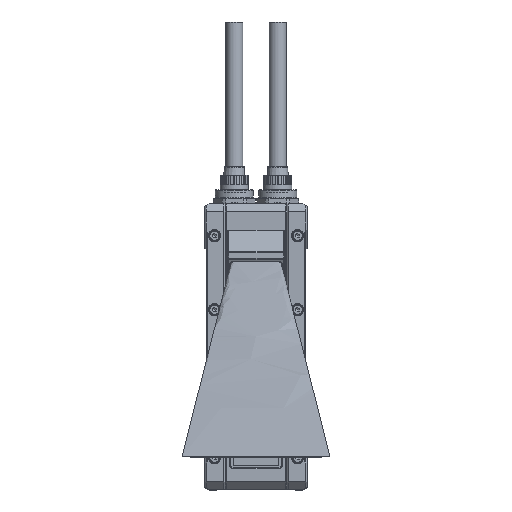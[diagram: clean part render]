
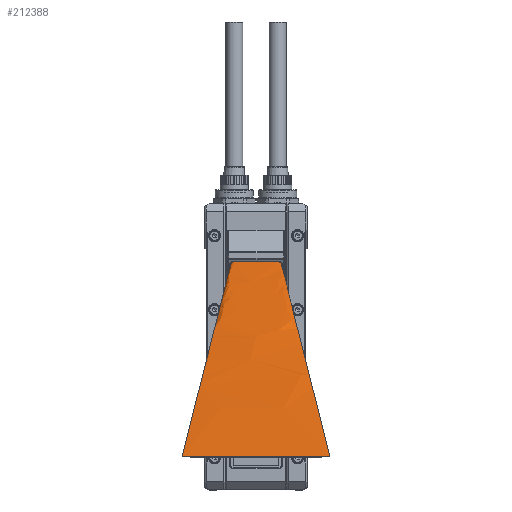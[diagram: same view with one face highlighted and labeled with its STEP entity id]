
A CAD part, top view. The second image highlights one B-rep face of the part: STEP entity #212388.
In plain terms, the highlighted free-form (B-spline) face has degree [3, 1] with [17, 2] control points.
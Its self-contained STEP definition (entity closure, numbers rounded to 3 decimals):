
#3007 = AXIS2_PLACEMENT_3D ( 'NONE', #88703, #302582, #144291 ) ;
#11779 = DIRECTION ( 'NONE',  ( -0.121, 0.48, -0.869 ) ) ;
#14892 = ORIENTED_EDGE ( 'NONE', *, *, #29100, .T. ) ;
#17611 = CARTESIAN_POINT ( 'NONE',  ( -9.071, 76.561, -115.504 ) ) ;
#19293 = CARTESIAN_POINT ( 'NONE',  ( -9.922, 75.838, -115.921 ) ) ;
#21461 = VECTOR ( 'NONE', #11779, 1000. ) ;
#22727 = CARTESIAN_POINT ( 'NONE',  ( -11.638, 0., 20. ) ) ;
#23028 = ORIENTED_EDGE ( 'NONE', *, *, #339159, .T. ) ;
#29100 = EDGE_CURVE ( 'NONE', #33655, #131299, #103701, .T. ) ;
#33655 = VERTEX_POINT ( 'NONE', #145343 ) ;
#39599 = CARTESIAN_POINT ( 'NONE',  ( 19.5, 37.662, -48.109 ) ) ;
#48856 = FACE_OUTER_BOUND ( 'NONE', #153938, .T. ) ;
#49158 = LINE ( 'NONE', #129220, #283963 ) ;
#53884 = VECTOR ( 'NONE', #326402, 1000. ) ;
#61184 = EDGE_CURVE ( 'NONE', #125379, #33655, #213462, .T. ) ;
#69934 = CARTESIAN_POINT ( 'NONE',  ( 9.922, 75.838, -115.921 ) ) ;
#75005 = CARTESIAN_POINT ( 'NONE',  ( -7.074, 76.622, -115.468 ) ) ;
#80337 = ORIENTED_EDGE ( 'NONE', *, *, #61184, .T. ) ;
#88119 = CARTESIAN_POINT ( 'NONE',  ( -29., 0., 20. ) ) ;
#88703 = CARTESIAN_POINT ( 'NONE',  ( -8.5, 75.323, -116.218 ) ) ;
#94008 = ORIENTED_EDGE ( 'NONE', *, *, #291671, .T. ) ;
#94958 = VERTEX_POINT ( 'NONE', #319959 ) ;
#97680 = CARTESIAN_POINT ( 'NONE',  ( 4.237, 76.622, -115.468 ) ) ;
#101056 = CARTESIAN_POINT ( 'NONE',  ( -23.713, 0., 20. ) ) ;
#102770 = CARTESIAN_POINT ( 'NONE',  ( 23.713, 0., 20. ) ) ;
#103701 = LINE ( 'NONE', #157664, #223949 ) ;
#104465 = CARTESIAN_POINT ( 'NONE',  ( -9.578, 76.276, -115.668 ) ) ;
#106181 = EDGE_CURVE ( 'NONE', #219246, #125379, #178578, .T. ) ;
#123790 = CARTESIAN_POINT ( 'NONE',  ( 9.071, 76.561, -115.504 ) ) ;
#125379 = VERTEX_POINT ( 'NONE', #291194 ) ;
#129220 = CARTESIAN_POINT ( 'NONE',  ( -19.5, 37.662, -48.109 ) ) ;
#131299 = VERTEX_POINT ( 'NONE', #214502 ) ;
#144291 = DIRECTION ( 'NONE',  ( 0., 0.866, 0.5 ) ) ;
#145343 = CARTESIAN_POINT ( 'NONE',  ( 8.5, 76.622, -115.468 ) ) ;
#149512 = DIRECTION ( 'NONE',  ( 0., -0.866, -0.5 ) ) ;
#153938 = EDGE_LOOP ( 'NONE', ( #94008, #169645, #80337, #14892, #23028, #154274 ) ) ;
#154274 = ORIENTED_EDGE ( 'NONE', *, *, #344250, .F. ) ;
#157664 = CARTESIAN_POINT ( 'NONE',  ( -8.5, 76.622, -115.468 ) ) ;
#169645 = ORIENTED_EDGE ( 'NONE', *, *, #106181, .T. ) ;
#172745 = CARTESIAN_POINT ( 'NONE',  ( 29., 0., 20. ) ) ;
#175866 = CARTESIAN_POINT ( 'NONE',  ( 28.517, 0., 20. ) ) ;
#177551 = CARTESIAN_POINT ( 'NONE',  ( -10., 75.323, -116.218 ) ) ;
#178578 = LINE ( 'NONE', #39599, #21461 ) ;
#179279 = CARTESIAN_POINT ( 'NONE',  ( -4.237, 76.622, -115.468 ) ) ;
#180974 = CARTESIAN_POINT ( 'NONE',  ( -29., 0., 20. ) ) ;
#182687 = CARTESIAN_POINT ( 'NONE',  ( -28.517, 0., 20. ) ) ;
#203722 = CARTESIAN_POINT ( 'NONE',  ( 7.074, 76.622, -115.468 ) ) ;
#205450 = CARTESIAN_POINT ( 'NONE',  ( 19.363, 0., 20. ) ) ;
#207158 = CARTESIAN_POINT ( 'NONE',  ( -8.687, 76.622, -115.468 ) ) ;
#208334 = CIRCLE ( 'NONE', #3007, 1.5 ) ;
#208835 = CARTESIAN_POINT ( 'NONE',  ( 24.7, 0., 20. ) ) ;
#212388 = ADVANCED_FACE ( 'NONE', ( #48856 ), #233101, .T. ) ;
#213462 = CIRCLE ( 'NONE', #341218, 1.5 ) ;
#214502 = CARTESIAN_POINT ( 'NONE',  ( -8.5, 76.622, -115.468 ) ) ;
#219246 = VERTEX_POINT ( 'NONE', #172745 ) ;
#223949 = VECTOR ( 'NONE', #336940, 1000. ) ;
#229755 = CARTESIAN_POINT ( 'NONE',  ( 10., 75.493, -116.12 ) ) ;
#231446 = CARTESIAN_POINT ( 'NONE',  ( 0., 0., 20. ) ) ;
#232777 = CARTESIAN_POINT ( 'NONE',  ( 8.5, 75.323, -116.218 ) ) ;
#233101 = B_SPLINE_SURFACE_WITH_KNOTS ( 'NONE', 3, 1, ( 
 ( #180974, #177551 ),
 ( #182687, #259229 ),
 ( #342903, #19293 ),
 ( #260919, #104465 ),
 ( #255853, #17611 ),
 ( #101056, #207158 ),
 ( #313310, #75005 ),
 ( #22727, #179279 ),
 ( #231446, #341166 ),
 ( #308173, #97680 ),
 ( #205450, #203722 ),
 ( #102770, #337751 ),
 ( #208835, #123790 ),
 ( #315008, #311606 ),
 ( #288871, #69934 ),
 ( #175866, #229755 ),
 ( #282025, #336010 ) ),
 .UNSPECIFIED., .F., .F., .F.,
 ( 4, 1, 1, 1, 2, 1, 1, 1, 2, 1, 1, 1, 4 ),
 ( 2, 2 ),
 ( 0., 0.026, 0.052, 0.078, 0.104, 0.302, 0.5, 0.698, 0.896, 0.922, 0.948, 0.974, 1. ),
 ( 0., 1. ),
 .UNSPECIFIED. ) ;
#255853 = CARTESIAN_POINT ( 'NONE',  ( -24.7, 0., 20. ) ) ;
#257780 = LINE ( 'NONE', #88119, #53884 ) ;
#259229 = CARTESIAN_POINT ( 'NONE',  ( -10., 75.493, -116.12 ) ) ;
#260919 = CARTESIAN_POINT ( 'NONE',  ( -26.139, 0., 20. ) ) ;
#261226 = DIRECTION ( 'NONE',  ( 0.121, 0.48, -0.869 ) ) ;
#270678 = CARTESIAN_POINT ( 'NONE',  ( -10., 75.323, -116.218 ) ) ;
#282025 = CARTESIAN_POINT ( 'NONE',  ( 29., 0., 20. ) ) ;
#283963 = VECTOR ( 'NONE', #261226, 1000. ) ;
#288871 = CARTESIAN_POINT ( 'NONE',  ( 27.563, 0., 20. ) ) ;
#291194 = CARTESIAN_POINT ( 'NONE',  ( 10., 75.323, -116.218 ) ) ;
#291671 = EDGE_CURVE ( 'NONE', #94958, #219246, #257780, .T. ) ;
#302582 = DIRECTION ( 'NONE',  ( 0., -0.5, 0.866 ) ) ;
#303465 = VERTEX_POINT ( 'NONE', #270678 ) ;
#308173 = CARTESIAN_POINT ( 'NONE',  ( 11.638, 0., 20. ) ) ;
#311187 = DIRECTION ( 'NONE',  ( 0., -0.5, 0.866 ) ) ;
#311606 = CARTESIAN_POINT ( 'NONE',  ( 9.578, 76.276, -115.668 ) ) ;
#313310 = CARTESIAN_POINT ( 'NONE',  ( -19.363, 0., 20. ) ) ;
#315008 = CARTESIAN_POINT ( 'NONE',  ( 26.139, 0., 20. ) ) ;
#319959 = CARTESIAN_POINT ( 'NONE',  ( -29., 0., 20. ) ) ;
#326402 = DIRECTION ( 'NONE',  ( 1., 0., 0. ) ) ;
#336010 = CARTESIAN_POINT ( 'NONE',  ( 10., 75.323, -116.218 ) ) ;
#336940 = DIRECTION ( 'NONE',  ( -1., 0., 0. ) ) ;
#337751 = CARTESIAN_POINT ( 'NONE',  ( 8.687, 76.622, -115.468 ) ) ;
#339159 = EDGE_CURVE ( 'NONE', #131299, #303465, #208334, .T. ) ;
#341166 = CARTESIAN_POINT ( 'NONE',  ( 0., 76.622, -115.468 ) ) ;
#341218 = AXIS2_PLACEMENT_3D ( 'NONE', #232777, #311187, #149512 ) ;
#342903 = CARTESIAN_POINT ( 'NONE',  ( -27.563, 0., 20. ) ) ;
#344250 = EDGE_CURVE ( 'NONE', #94958, #303465, #49158, .T. ) ;
